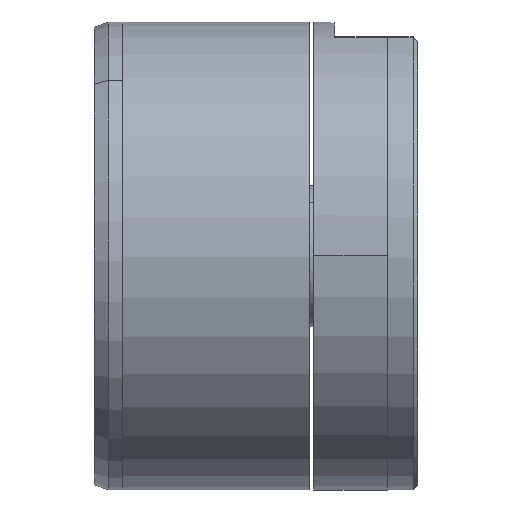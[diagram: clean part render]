
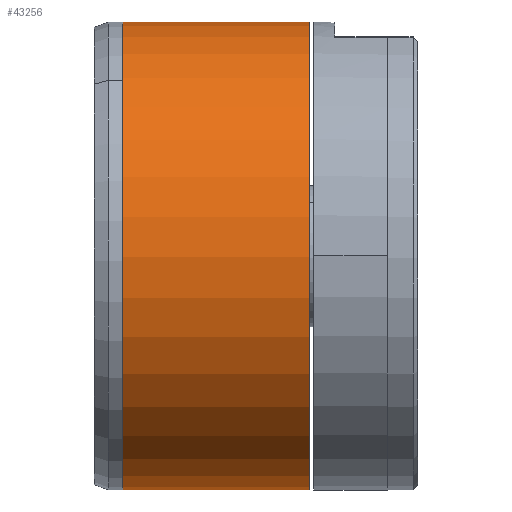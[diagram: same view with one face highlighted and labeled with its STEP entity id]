
A CAD part, front view. The second image highlights one B-rep face of the part: STEP entity #43256.
In plain terms, the highlighted cylindrical face has radius 24.5 mm (diameter 49 mm), a partial arc.
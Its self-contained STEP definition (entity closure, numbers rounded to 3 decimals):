
#261 = CIRCLE ( 'NONE', #15259, 24.5 ) ;
#2609 = CARTESIAN_POINT ( 'NONE',  ( -2., 0.127, -24.5 ) ) ;
#3669 = DIRECTION ( 'NONE',  ( 0., -0.005, 1. ) ) ;
#8502 = DIRECTION ( 'NONE',  ( -1., 0., 0. ) ) ;
#10612 = VERTEX_POINT ( 'NONE', #27375 ) ;
#10832 = ORIENTED_EDGE ( 'NONE', *, *, #25468, .T. ) ;
#13026 = CARTESIAN_POINT ( 'NONE',  ( -2., -0.127, 24.5 ) ) ;
#15109 = DIRECTION ( 'NONE',  ( -1., 0., 0. ) ) ;
#15259 = AXIS2_PLACEMENT_3D ( 'NONE', #21916, #39643, #22121 ) ;
#15727 = ORIENTED_EDGE ( 'NONE', *, *, #56183, .F. ) ;
#19015 = VERTEX_POINT ( 'NONE', #2609 ) ;
#19238 = AXIS2_PLACEMENT_3D ( 'NONE', #54534, #8502, #3669 ) ;
#21640 = ORIENTED_EDGE ( 'NONE', *, *, #27684, .T. ) ;
#21916 = CARTESIAN_POINT ( 'NONE',  ( 17.5, 0., 0. ) ) ;
#22121 = DIRECTION ( 'NONE',  ( 0., -0.005, 1. ) ) ;
#22224 = CARTESIAN_POINT ( 'NONE',  ( 17.5, 0.127, -24.5 ) ) ;
#25257 = DIRECTION ( 'NONE',  ( -1., 0., 0. ) ) ;
#25468 = EDGE_CURVE ( 'NONE', #49327, #10612, #261, .T. ) ;
#27375 = CARTESIAN_POINT ( 'NONE',  ( 17.5, -0.127, 24.5 ) ) ;
#27684 = EDGE_CURVE ( 'NONE', #10612, #47437, #42896, .T. ) ;
#34202 = CARTESIAN_POINT ( 'NONE',  ( -49.058, 0.127, -24.5 ) ) ;
#34733 = ORIENTED_EDGE ( 'NONE', *, *, #53781, .F. ) ;
#39631 = CYLINDRICAL_SURFACE ( 'NONE', #47851, 24.5 ) ;
#39643 = DIRECTION ( 'NONE',  ( -1., 0., 0. ) ) ;
#39898 = EDGE_LOOP ( 'NONE', ( #34733, #10832, #21640, #15727 ) ) ;
#41262 = LINE ( 'NONE', #34202, #52742 ) ;
#42896 = LINE ( 'NONE', #47938, #59531 ) ;
#43256 = ADVANCED_FACE ( 'NONE', ( #59075 ), #39631, .T. ) ;
#44467 = DIRECTION ( 'NONE',  ( 0., -0.005, 1. ) ) ;
#47437 = VERTEX_POINT ( 'NONE', #13026 ) ;
#47851 = AXIS2_PLACEMENT_3D ( 'NONE', #53491, #58140, #44467 ) ;
#47938 = CARTESIAN_POINT ( 'NONE',  ( -49.058, -0.127, 24.5 ) ) ;
#49327 = VERTEX_POINT ( 'NONE', #22224 ) ;
#52742 = VECTOR ( 'NONE', #25257, 1000. ) ;
#53185 = CIRCLE ( 'NONE', #19238, 24.5 ) ;
#53491 = CARTESIAN_POINT ( 'NONE',  ( -49.058, 0., 0. ) ) ;
#53781 = EDGE_CURVE ( 'NONE', #49327, #19015, #41262, .T. ) ;
#54534 = CARTESIAN_POINT ( 'NONE',  ( -2., 0., 0. ) ) ;
#56183 = EDGE_CURVE ( 'NONE', #19015, #47437, #53185, .T. ) ;
#58140 = DIRECTION ( 'NONE',  ( -1., 0., 0. ) ) ;
#59075 = FACE_OUTER_BOUND ( 'NONE', #39898, .T. ) ;
#59531 = VECTOR ( 'NONE', #15109, 1000. ) ;
